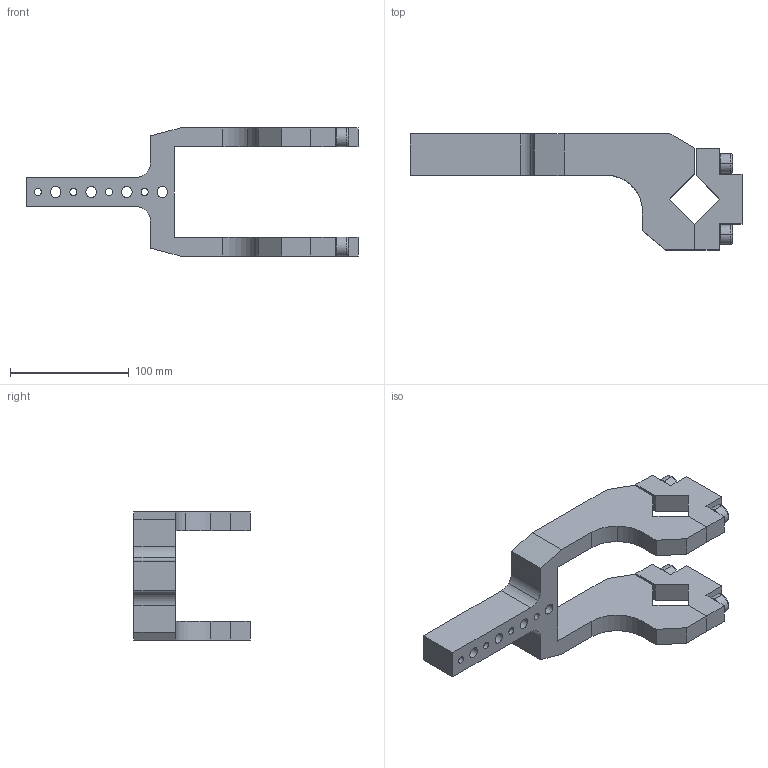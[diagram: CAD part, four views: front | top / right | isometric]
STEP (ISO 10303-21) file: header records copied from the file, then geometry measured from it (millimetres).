
FILE_DESCRIPTION((''),'2;1');
FILE_NAME('S:\Matthew\Step Files\XM Clamp Arms\XJ80-CA-04.stp','2006-06-28T08:20:31',('Matthew'),(''),'Autodesk Inventor 8','Autodesk Inventor 8','');
FILE_SCHEMA(('AUTOMOTIVE_DESIGN { 1 0 10303 214 1 1 1 1 }'));
Length unit declared in the file: millimetre
Products named in the file (1): XJ80-CA-04
Bounding box: 280 x 98 x 108 mm (x, y, z)
Volume: 412440.6 mm3; surface area: 91682.7 mm2
Topology: 1 solids, 1 shells, 369 faces, 1203 edges, 750 vertices
Faces by surface type: plane 290, cylinder 47, bspline 24, torus 8
Entity records: 13690 total; most frequent: CARTESIAN_POINT 2723, ORIENTED_EDGE 2390, DIRECTION 2357, EDGE_CURVE 1195, AXIS2_PLACEMENT_3D 816, VERTEX_POINT 750, VECTOR 725, LINE 725
